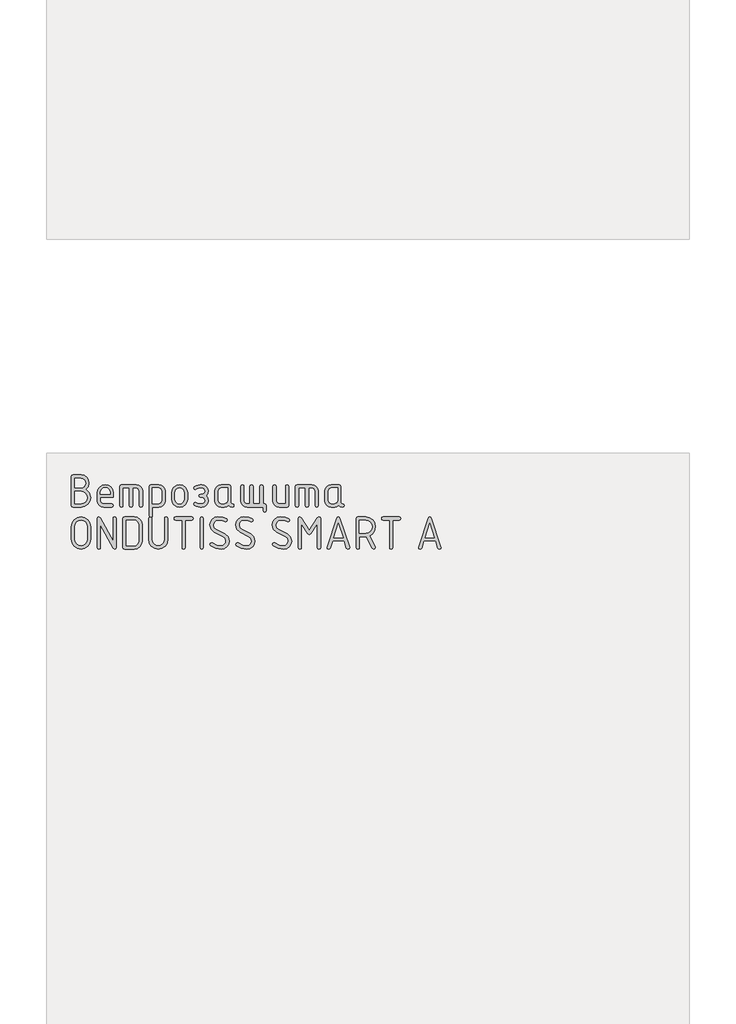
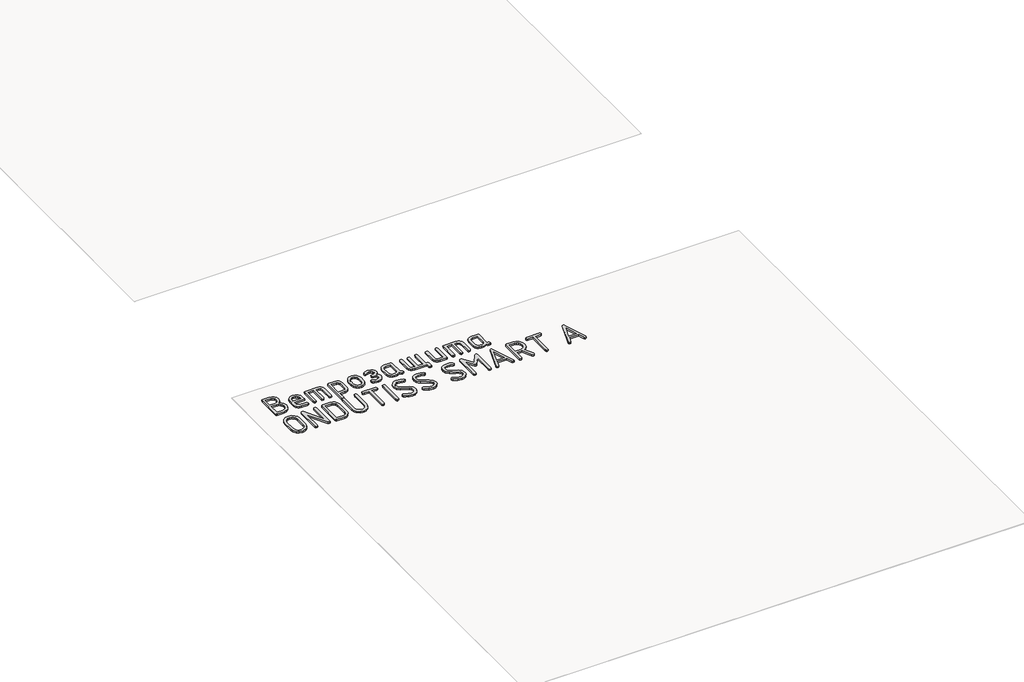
# One storey, part 10 of 42: 1 proxy.
"""IFC4 building model written with IfcOpenShell, lengths in millimetres."""

from ifc_helpers import new_model, si_unit, origin, origin_with_axes, place, context, project, spatial, polyline, outline, extrude, element, save

model = new_model("IFC4")

# Units and contexts
model_context = context("Model", 3, world=origin())
ifc_project = project(units=[si_unit("LENGTHUNIT", "METRE", prefix="MILLI")], contexts=[model_context])

# Site, building, storey
site = spatial("IfcSite", under=ifc_project)
building = spatial("IfcBuilding", under=site)
storey = spatial("IfcBuildingStorey", under=building, Name="Этаж 01", Elevation=0.0)

# Proxy
placement = place(None, origin())
element("IfcBuildingElementProxy", 1, Name="150 мм GOST Common", ObjectType="150 мм GOST Common", at=placement, inside=storey, context=model_context, shape_type="SweptSolid", body=[
    extrude(outline(polyline([(-23252.8873918, -34744.1512234), (-23236.4972471, -34759.9620699), (-23231.0338655, -34782.145197), (-23234.3098969, -34799.2594645), (-23244.137991, -34813.6869868), (-23258.6004709, -34823.5000991), (-23275.7796598, -34826.7711365), (-23313.0545046, -34826.7711365), (-23318.6577168, -34824.8834233), (-23320.5254542, -34819.2202837), (-23320.5254542, -34683.4647398), (-23318.6677047, -34677.8016002), (-23313.0944562, -34675.913887), (-23275.8995146, -34675.913887), (-23261.4620044, -34678.6905234), (-23249.4715299, -34687.0204324), (-23241.3963123, -34699.3854533), (-23238.7045731, -34714.267425), (-23242.2502778, -34730.9272431), (-23252.8873918, -34744.1512234)]), holes=[polyline([(-23305.184039, -34691.2553022), (-23305.184039, -34737.2795478), (-23275.9794178, -34737.2795478), (-23267.5446358, -34735.5965866), (-23260.4582204, -34730.5477029), (-23255.6490463, -34723.1117109), (-23254.0459883, -34714.267425), (-23255.6490463, -34705.4231391), (-23260.4582204, -34697.9871472), (-23267.5446358, -34692.9382635), (-23275.9794178, -34691.2553022), (-23305.184039, -34691.2553022)]), polyline([(-23305.184039, -34752.620963), (-23305.184039, -34811.4297213), (-23275.7796598, -34811.4297213), (-23264.3884593, -34809.2973045), (-23254.9049477, -34802.9000542), (-23248.5076975, -34793.4165427), (-23246.3752807, -34782.0253421), (-23248.5076975, -34770.6341416), (-23254.9049477, -34761.1506301), (-23264.3884593, -34754.7533798), (-23275.7796598, -34752.620963), (-23305.184039, -34752.620963)])]), origin_with_axes(), (0.0, 0.0, 1.0), 10.0),
    extrude(outline(polyline([(-23185.0096199, -34780.7468909), (-23185.0096199, -34796.0883061), (-23180.5749921, -34806.8952144), (-23170.0277691, -34811.4297213), (-23132.5132148, -34811.4297213), (-23126.8800389, -34813.3473982), (-23125.0023136, -34819.1004289), (-23126.8800389, -34824.8534596), (-23132.5132148, -34826.7711365), (-23170.0277691, -34826.7711365), (-23181.683649, -34824.6037621), (-23191.4817794, -34818.1016388), (-23198.1337212, -34808.443339), (-23200.3510351, -34796.8074349), (-23200.3510351, -34759.3727838), (-23197.5694048, -34744.9802191), (-23189.2245139, -34732.8848716), (-23176.9843418, -34724.6748174), (-23162.5168679, -34721.9381326), (-23147.9395271, -34724.5949142), (-23135.8491736, -34732.5652588), (-23127.7140286, -34744.4109088), (-23125.0023136, -34758.6936065), (-23125.0023136, -34780.7468909), (-23185.0096199, -34780.7468909)]), holes=[polyline([(-23162.5168679, -34735.4018225), (-23171.146414, -34737.0498261), (-23178.4176056, -34741.9938369), (-23183.3616163, -34749.2650284), (-23185.0096199, -34757.8945745), (-23185.0096199, -34765.4054757), (-23140.024116, -34765.4054757), (-23140.024116, -34757.8945745), (-23141.6721196, -34749.2650284), (-23146.6161303, -34741.9938369), (-23153.8873219, -34737.0498261), (-23162.5168679, -34735.4018225)])]), origin_with_axes(), (0.0, 0.0, 1.0), 10.0),
    extrude(outline(polyline([(-23087.8473237, -34721.9381326), (-23018.8109553, -34721.9381326), (-23006.9852811, -34724.1204889), (-22997.0772837, -34730.6675577), (-22990.3654146, -34740.3408393), (-22988.1281249, -34751.9018342), (-22988.1281249, -34819.3001869), (-22990.0458018, -34824.9033991), (-22995.7988325, -34826.7711365), (-23001.5518632, -34824.9033991), (-23003.4695401, -34819.3001869), (-23003.4695401, -34752.1814954), (-23007.8841921, -34741.574345), (-23018.8109553, -34737.2795478), (-23034.1523705, -34737.2795478), (-23034.1523705, -34819.3001869), (-23036.0700474, -34824.9033991), (-23041.8230781, -34826.7711365), (-23047.5761088, -34824.9033991), (-23049.4937857, -34819.3001869), (-23049.4937857, -34737.2795478), (-23080.1766161, -34737.2795478), (-23080.1766161, -34819.3001869), (-23082.094293, -34824.9033991), (-23087.8473237, -34826.7711365), (-23093.6003544, -34824.9033991), (-23095.5180313, -34819.3001869), (-23095.5180313, -34729.4090822), (-23093.6003544, -34723.80587), (-23087.8473237, -34721.9381326)])), origin_with_axes(), (0.0, 0.0, 1.0), 10.0),
    extrude(outline(polyline([(-22957.4452945, -34729.4889854), (-22955.587545, -34723.8258458), (-22950.0142965, -34721.9381326), (-22912.9392098, -34721.9381326), (-22901.4431363, -34724.105507), (-22891.8847155, -34730.6076303), (-22885.4425196, -34740.2659301), (-22883.295121, -34751.9018342), (-22883.295121, -34796.8074349), (-22885.4275378, -34808.3684298), (-22891.8247881, -34818.0417114), (-22901.3082996, -34824.5887802), (-22912.6995002, -34826.7711365), (-22942.1038793, -34826.7711365), (-22942.1038793, -34865.1246745), (-22944.0215562, -34870.8777052), (-22949.7745869, -34872.7953821), (-22955.5276176, -34870.9076689), (-22957.4452945, -34865.2445293), (-22957.4452945, -34729.4889854)]), holes=[polyline([(-22942.1038793, -34737.2795478), (-22942.1038793, -34811.4297213), (-22913.1389678, -34811.4297213), (-22902.871406, -34807.0949725), (-22898.6365362, -34796.6076769), (-22898.6365362, -34752.1015922), (-22902.8114786, -34741.5543692), (-22913.1389678, -34737.2795478), (-22942.1038793, -34737.2795478)])]), origin_with_axes(), (0.0, 0.0, 1.0), 10.0),
    extrude(outline(polyline([(-22852.6122906, -34789.3364853), (-22852.6122906, -34759.3727838), (-22849.9005756, -34744.9802191), (-22841.7654307, -34732.8848716), (-22829.784944, -34724.6748174), (-22815.5372039, -34721.9381326), (-22801.1396453, -34724.6448537), (-22789.1891223, -34732.7650168), (-22781.1438685, -34744.8304006), (-22778.4621172, -34759.3727838), (-22778.4621172, -34789.3364853), (-22781.1738322, -34803.72905), (-22789.3089771, -34815.8243975), (-22801.2894638, -34824.0344517), (-22815.5372039, -34826.7711365), (-22829.784944, -34824.0344517), (-22841.7654307, -34815.8243975), (-22849.9005756, -34803.72905), (-22852.6122906, -34789.3364853)]), holes=[polyline([(-22793.8035324, -34788.8970177), (-22793.8035324, -34758.8933645), (-22795.3966025, -34750.2638185), (-22800.1758129, -34742.9926269), (-22807.2023009, -34738.0486162), (-22815.5372039, -34736.4006126), (-22823.8721069, -34738.0486162), (-22830.8985949, -34742.9926269), (-22835.6778053, -34750.2638185), (-22837.2708754, -34758.8933645), (-22837.2708754, -34788.8970177), (-22835.6927871, -34797.606467), (-22830.9585223, -34804.8776585), (-22823.9470161, -34809.7917056), (-22815.5372039, -34811.4297213), (-22807.2023009, -34809.7817177), (-22800.1758129, -34804.8377069), (-22795.3966025, -34797.5565275), (-22793.8035324, -34788.8970177)])]), origin_with_axes(), (0.0, 0.0, 1.0), 10.0),
    extrude(outline(polyline([(-22696.6412361, -34796.0483545), (-22700.6363963, -34784.7020995), (-22709.505652, -34780.7468909), (-22719.1739397, -34780.7468909), (-22724.4875028, -34778.5495528), (-22726.6448893, -34773.1161349), (-22724.4275754, -34767.6627412), (-22717.0165532, -34765.4054757), (-22714.7393119, -34765.4054757), (-22712.3422157, -34765.4054757), (-22700.6763479, -34761.3503881), (-22696.6412361, -34751.3425118), (-22700.9759849, -34741.3346354), (-22711.6630385, -34737.2795478), (-22719.1739397, -34737.2795478), (-22734.5553065, -34741.0949258), (-22743.4645138, -34744.9103038), (-22747.459674, -34742.1736191), (-22749.1775929, -34736.9199834), (-22746.1013195, -34731.1769406), (-22736.8724994, -34726.013196), (-22719.1739397, -34721.9381326), (-22711.6630385, -34721.9381326), (-22699.9771949, -34724.0555675), (-22690.1690766, -34730.4078723), (-22683.5171348, -34739.8264625), (-22681.2998209, -34751.1427537), (-22683.9466146, -34764.4366493), (-22691.8869955, -34773.0761833), (-22683.9466146, -34782.2650518), (-22681.2998209, -34796.0883061), (-22683.5171348, -34807.9888895), (-22690.1690766, -34817.881905), (-22699.9771949, -34824.5488286), (-22711.6630385, -34826.7711365), (-22719.1739397, -34826.7711365), (-22736.9923542, -34822.8159279), (-22746.1312832, -34817.7420744), (-22749.1775929, -34811.7892857), (-22747.459674, -34806.5156742), (-22743.3446589, -34803.7989653), (-22734.2157179, -34807.6143433), (-22719.1739397, -34811.4297213), (-22711.6630385, -34811.4297213), (-22701.0159365, -34806.935166), (-22696.6412361, -34796.0483545)])), origin_with_axes(), (0.0, 0.0, 1.0), 10.0),
    extrude(outline(polyline([(-22561.4849663, -34819.3001869), (-22563.3527037, -34824.9033991), (-22568.9559159, -34826.7711365), (-22578.4344335, -34824.7835443), (-22586.01525, -34818.8207677), (-22595.1342031, -34824.7835443), (-22606.1109058, -34826.7711365), (-22620.9729018, -34826.7711365), (-22632.4689753, -34824.6037621), (-22642.0273961, -34818.1016388), (-22648.4695919, -34808.443339), (-22650.6169905, -34796.8074349), (-22650.6169905, -34751.9018342), (-22648.4695919, -34740.2659301), (-22642.0273961, -34730.6076303), (-22632.4689753, -34724.105507), (-22620.9729018, -34721.9381326), (-22583.8978151, -34721.9381326), (-22578.3245666, -34723.80587), (-22576.4668171, -34729.4090822), (-22576.4668171, -34804.3183361), (-22574.5940857, -34809.9215483), (-22568.9758917, -34811.7892857), (-22563.3576976, -34813.667011), (-22561.4849663, -34819.3001869)]), holes=[polyline([(-22591.8082323, -34737.2795478), (-22620.7731438, -34737.2795478), (-22631.0407055, -34741.6142966), (-22635.2755753, -34752.1015922), (-22635.2755753, -34796.6076769), (-22631.0007539, -34807.0550209), (-22620.7731438, -34811.4297213), (-22606.3106638, -34811.4297213), (-22596.0431021, -34807.0949725), (-22591.8082323, -34796.6076769), (-22591.8082323, -34737.2795478)])]), origin_with_axes(), (0.0, 0.0, 1.0), 10.0),
    extrude(outline(polyline([(-22425.6095676, -34826.7711365), (-22500.4788699, -34826.7711365), (-22512.114774, -34824.5887802), (-22521.7730738, -34818.0417114), (-22528.2751971, -34808.3684298), (-22530.4425715, -34796.8074349), (-22530.4425715, -34729.4090822), (-22528.5248946, -34723.80587), (-22522.7718639, -34721.9381326), (-22517.0188332, -34723.80587), (-22515.1011563, -34729.4090822), (-22515.1011563, -34796.5277737), (-22510.9461897, -34807.0150692), (-22501.0381924, -34811.4297213), (-22486.9752284, -34811.4297213), (-22486.9752284, -34729.4090822), (-22485.0575515, -34723.80587), (-22479.3045208, -34721.9381326), (-22473.5514901, -34723.80587), (-22471.6338132, -34729.4090822), (-22471.6338132, -34811.4297213), (-22440.9509828, -34811.4297213), (-22440.9509828, -34729.4090822), (-22439.0333059, -34723.80587), (-22433.2802752, -34721.9381326), (-22427.5272445, -34723.80587), (-22425.6095676, -34729.4090822), (-22425.6095676, -34811.4297213), (-22417.93886, -34811.4297213), (-22412.1858293, -34813.3473982), (-22410.2681524, -34819.1004289), (-22410.2681524, -34842.1125517), (-22412.1858293, -34847.8655824), (-22417.93886, -34849.7832593), (-22423.6918907, -34847.8655824), (-22425.6095676, -34842.1125517), (-22425.6095676, -34826.7711365)])), origin_with_axes(), (0.0, 0.0, 1.0), 10.0),
    extrude(outline(polyline([(-22305.4351486, -34729.4090822), (-22305.4351486, -34819.3001869), (-22307.2928981, -34824.9033991), (-22312.8661466, -34826.7711365), (-22349.9412333, -34826.7711365), (-22361.4373068, -34824.6037621), (-22370.9957276, -34818.1016388), (-22377.4379234, -34808.443339), (-22379.585322, -34796.8074349), (-22379.585322, -34729.4090822), (-22377.6676451, -34723.80587), (-22371.9146144, -34721.9381326), (-22366.1615837, -34723.80587), (-22364.2439068, -34729.4090822), (-22364.2439068, -34796.5277737), (-22359.9690854, -34807.0150692), (-22349.7414753, -34811.4297213), (-22320.7765638, -34811.4297213), (-22320.7765638, -34729.4090822), (-22318.8588869, -34723.80587), (-22313.1058562, -34721.9381326), (-22307.3528255, -34723.80587), (-22305.4351486, -34729.4090822)])), origin_with_axes(), (0.0, 0.0, 1.0), 10.0),
    extrude(outline(polyline([(-22267.0816106, -34721.9381326), (-22198.0452422, -34721.9381326), (-22186.219568, -34724.1204889), (-22176.3115707, -34730.6675577), (-22169.5997015, -34740.3408393), (-22167.3624118, -34751.9018342), (-22167.3624118, -34819.3001869), (-22169.2800887, -34824.9033991), (-22175.0331194, -34826.7711365), (-22180.7861501, -34824.9033991), (-22182.703827, -34819.3001869), (-22182.703827, -34752.1814954), (-22187.118479, -34741.574345), (-22198.0452422, -34737.2795478), (-22213.3866574, -34737.2795478), (-22213.3866574, -34819.3001869), (-22215.3043343, -34824.9033991), (-22221.057365, -34826.7711365), (-22226.8103957, -34824.9033991), (-22228.7280726, -34819.3001869), (-22228.7280726, -34737.2795478), (-22259.410903, -34737.2795478), (-22259.410903, -34819.3001869), (-22261.3285799, -34824.9033991), (-22267.0816106, -34826.7711365), (-22272.8346413, -34824.9033991), (-22274.7523182, -34819.3001869), (-22274.7523182, -34729.4090822), (-22272.8346413, -34723.80587), (-22267.0816106, -34721.9381326)])), origin_with_axes(), (0.0, 0.0, 1.0), 10.0),
    extrude(outline(polyline([(-22047.5475572, -34819.3001869), (-22049.4152946, -34824.9033991), (-22055.0185068, -34826.7711365), (-22064.4970244, -34824.7835443), (-22072.0778409, -34818.8207677), (-22081.196794, -34824.7835443), (-22092.1734967, -34826.7711365), (-22107.0354927, -34826.7711365), (-22118.5315662, -34824.6037621), (-22128.089987, -34818.1016388), (-22134.5321828, -34808.443339), (-22136.6795814, -34796.8074349), (-22136.6795814, -34751.9018342), (-22134.5321828, -34740.2659301), (-22128.089987, -34730.6076303), (-22118.5315662, -34724.105507), (-22107.0354927, -34721.9381326), (-22069.9604059, -34721.9381326), (-22064.3871575, -34723.80587), (-22062.529408, -34729.4090822), (-22062.529408, -34804.3183361), (-22060.6566766, -34809.9215483), (-22055.0384826, -34811.7892857), (-22049.4202885, -34813.667011), (-22047.5475572, -34819.3001869)]), holes=[polyline([(-22077.8708232, -34737.2795478), (-22106.8357347, -34737.2795478), (-22117.1032964, -34741.6142966), (-22121.3381662, -34752.1015922), (-22121.3381662, -34796.6076769), (-22117.0633448, -34807.0550209), (-22106.8357347, -34811.4297213), (-22092.3732547, -34811.4297213), (-22082.105693, -34807.0949725), (-22077.8708232, -34796.6076769), (-22077.8708232, -34737.2795478)])]), origin_with_axes(), (0.0, 0.0, 1.0), 10.0),
    extrude(outline(polyline([(-23231.0338655, -34977.5302169), (-23234.3098969, -34994.8991759), (-23244.137991, -35009.5314502), (-23258.6004709, -35019.4793991), (-23275.7796598, -35022.7953821), (-23292.9588487, -35019.4793991), (-23307.4213287, -35009.5314502), (-23317.2494228, -34994.8991759), (-23320.5254542, -34977.5302169), (-23320.5254542, -34917.2032978), (-23317.2494228, -34899.8343388), (-23307.4213287, -34885.2020645), (-23292.9588487, -34875.2541156), (-23275.7796598, -34871.9381326), (-23258.5255617, -34875.2391337), (-23244.0780636, -34885.1421371), (-23234.294915, -34899.7594295), (-23231.0338655, -34917.2032978), (-23231.0338655, -34977.5302169)]), holes=[polyline([(-23246.3752807, -34977.4103621), (-23246.3752807, -34917.3231526), (-23248.5076975, -34905.6772606), (-23254.9049477, -34895.9889971), (-23264.3884593, -34889.4569101), (-23275.7796598, -34887.2795478), (-23287.1708604, -34889.4569101), (-23296.6543719, -34895.9889971), (-23303.0516222, -34905.6772606), (-23305.184039, -34917.3231526), (-23305.184039, -34977.4103621), (-23303.0516222, -34989.0562541), (-23296.6543719, -34998.7445176), (-23287.1708604, -35005.2766046), (-23275.7796598, -35007.4539669), (-23264.3884593, -35005.2766046), (-23254.9049477, -34998.7445176), (-23248.5076975, -34989.0562541), (-23246.3752807, -34977.4103621)])]), origin_with_axes(), (0.0, 0.0, 1.0), 10.0),
    extrude(outline(polyline([(-23126.2008617, -34986.1198114), (-23126.2008617, -34879.4889854), (-23124.2831848, -34873.8258458), (-23118.5301541, -34871.9381326), (-23112.7771234, -34873.8258458), (-23110.8594465, -34879.4889854), (-23110.8594465, -35015.2445293), (-23112.8969782, -35020.9076689), (-23119.0095733, -35022.7953821), (-23126.2008617, -35019.0399315), (-23185.0096199, -34908.4938485), (-23185.0096199, -35015.2445293), (-23186.9272968, -35020.9076689), (-23192.6803275, -35022.7953821), (-23198.4333582, -35020.9076689), (-23200.3510351, -35015.2445293), (-23200.3510351, -34879.4889854), (-23198.353455, -34873.8258458), (-23192.3607147, -34871.9381326), (-23185.0096199, -34876.4127121), (-23126.2008617, -34986.1198114)])), origin_with_axes(), (0.0, 0.0, 1.0), 10.0),
    extrude(outline(polyline([(-23080.1766161, -34879.4889854), (-23078.3088787, -34873.8258458), (-23072.7056665, -34871.9381326), (-23027.9598721, -34871.9381326), (-23013.4874043, -34874.6648295), (-23001.47196, -34882.84492), (-22993.3817605, -34895.0001949), (-22990.6850274, -34909.652445), (-22990.6850274, -34985.0810697), (-22993.4117242, -34999.5835013), (-23001.5918148, -35011.7687399), (-23013.6372228, -35020.0387215), (-23027.9598721, -35022.7953821), (-23072.7056665, -35022.7953821), (-23078.3088787, -35020.9076689), (-23080.1766161, -35015.2445293), (-23080.1766161, -34879.4889854)]), holes=[polyline([(-23064.8352009, -34887.2795478), (-23064.8352009, -35007.4539669), (-23028.079727, -35007.4539669), (-23019.6049934, -35005.8059633), (-23012.4786263, -35000.8619525), (-23007.6394885, -34993.580773), (-23006.0264426, -34984.9212633), (-23006.0264426, -34909.8122514), (-23007.6394885, -34901.1527416), (-23012.4786263, -34893.8715622), (-23019.6049934, -34888.9275514), (-23028.079727, -34887.2795478), (-23064.8352009, -34887.2795478)])]), origin_with_axes(), (0.0, 0.0, 1.0), 10.0),
    extrude(outline(polyline([(-22870.5106084, -34879.4889854), (-22870.5106084, -34977.5302169), (-22873.7866397, -34994.8991759), (-22883.6147338, -35009.5314502), (-22898.0772138, -35019.4793991), (-22915.2564027, -35022.7953821), (-22932.4355916, -35019.4793991), (-22946.8980715, -35009.5314502), (-22956.7261656, -34994.8991759), (-22960.002197, -34977.5302169), (-22960.002197, -34879.4889854), (-22958.0845201, -34873.8258458), (-22952.3314894, -34871.9381326), (-22946.5784587, -34873.8158579), (-22944.6607818, -34879.4490338), (-22944.6607818, -34977.3304589), (-22942.5283651, -34989.0113086), (-22936.1311148, -34998.7245418), (-22926.6476032, -35005.2716106), (-22915.2564027, -35007.4539669), (-22903.8652021, -35005.2716106), (-22894.3816906, -34998.7245418), (-22887.9844403, -34989.0113086), (-22885.8520236, -34977.3304589), (-22885.8520236, -34879.4490338), (-22883.9343467, -34873.8158579), (-22878.181316, -34871.9381326), (-22872.4282853, -34873.8258458), (-22870.5106084, -34879.4889854)])), origin_with_axes(), (0.0, 0.0, 1.0), 10.0),
    extrude(outline(polyline([(-22841.5456969, -34879.6088402), (-22839.6679716, -34873.8558095), (-22834.0347957, -34871.9381326), (-22758.6860741, -34871.9381326), (-22753.082862, -34873.8558095), (-22751.2151246, -34879.6088402), (-22753.082862, -34885.3618709), (-22758.6860741, -34887.2795478), (-22788.6897273, -34887.2795478), (-22788.6897273, -35015.2844809), (-22790.6074042, -35020.9176568), (-22796.3604349, -35022.7953821), (-22802.1134656, -35020.9176568), (-22804.0311425, -35015.2844809), (-22804.0311425, -34887.2795478), (-22834.0347957, -34887.2795478), (-22839.6679716, -34885.3618709), (-22841.5456969, -34879.6088402)])), origin_with_axes(), (0.0, 0.0, 1.0), 10.0),
    extrude(outline(polyline([(-22711.9826513, -35022.7953821), (-22717.735682, -35020.9076689), (-22719.6533589, -35015.2445293), (-22719.6533589, -34879.4889854), (-22717.735682, -34873.8258458), (-22711.9826513, -34871.9381326), (-22706.2296206, -34873.8258458), (-22704.3119437, -34879.4889854), (-22704.3119437, -35015.2445293), (-22706.2296206, -35020.9076689), (-22711.9826513, -35022.7953821)])), origin_with_axes(), (0.0, 0.0, 1.0), 10.0),
    extrude(outline(polyline([(-22584.1375247, -34985.1609729), (-22586.8792034, -34999.5535376), (-22595.1042394, -35011.7287883), (-22607.1646293, -35020.0287336), (-22621.4123694, -35022.7953821), (-22647.4308503, -35018.6104518), (-22670.353082, -35006.0556608), (-22673.6291133, -34999.9430657), (-22671.4317752, -34994.6494784), (-22666.1981153, -34992.4321645), (-22661.9632455, -34993.790519), (-22641.5080253, -35004.2578387), (-22621.7319822, -35007.4539669), (-22613.1823394, -35005.8009693), (-22605.991051, -35000.8419767), (-22601.1069677, -34993.5458154), (-22599.4789399, -34984.8813117), (-22602.5652011, -34972.9158069), (-22611.8239849, -34964.665801), (-22653.5334575, -34943.0120327), (-22668.6051994, -34929.3985243), (-22673.6291133, -34909.5725418), (-22670.9024165, -34895.1799771), (-22662.722326, -34883.0047264), (-22650.7268574, -34874.7047811), (-22636.5540266, -34871.9381326), (-22613.3721095, -34874.0256038), (-22596.4026665, -34880.2880175), (-22591.9680387, -34887.2795478), (-22594.1853526, -34892.5731351), (-22599.4789399, -34894.790449), (-22602.5951648, -34893.991417), (-22619.4747167, -34888.9575151), (-22636.2344138, -34887.2795478), (-22644.7091474, -34888.9325454), (-22651.8355144, -34893.891538), (-22656.6746522, -34901.1876993), (-22658.2876981, -34909.852203), (-22655.2513764, -34921.7877441), (-22646.1424111, -34929.9478588), (-22604.4728901, -34951.6016272), (-22589.221366, -34965.3050267), (-22584.1375247, -34985.1609729)])), origin_with_axes(), (0.0, 0.0, 1.0), 10.0),
    extrude(outline(polyline([(-22463.9631056, -34985.1609729), (-22466.7047843, -34999.5535376), (-22474.9298204, -35011.7287883), (-22486.9902103, -35020.0287336), (-22501.2379504, -35022.7953821), (-22527.2564312, -35018.6104518), (-22550.1786629, -35006.0556608), (-22553.4546943, -34999.9430657), (-22551.2573562, -34994.6494784), (-22546.0236963, -34992.4321645), (-22541.7888265, -34993.790519), (-22521.3336062, -35004.2578387), (-22501.5575632, -35007.4539669), (-22493.0079203, -35005.8009693), (-22485.816632, -35000.8419767), (-22480.9325486, -34993.5458154), (-22479.3045208, -34984.8813117), (-22482.3907821, -34972.9158069), (-22491.6495659, -34964.665801), (-22533.3590384, -34943.0120327), (-22548.4307803, -34929.3985243), (-22553.4546943, -34909.5725418), (-22550.7279974, -34895.1799771), (-22542.5479069, -34883.0047264), (-22530.5524384, -34874.7047811), (-22516.3796075, -34871.9381326), (-22493.1976904, -34874.0256038), (-22476.2282475, -34880.2880175), (-22471.7936196, -34887.2795478), (-22474.0109335, -34892.5731351), (-22479.3045208, -34894.790449), (-22482.4207458, -34893.991417), (-22499.3002977, -34888.9575151), (-22516.0599947, -34887.2795478), (-22524.5347283, -34888.9325454), (-22531.6610953, -34893.891538), (-22536.5002331, -34901.1876993), (-22538.1132791, -34909.852203), (-22535.0769573, -34921.7877441), (-22525.967992, -34929.9478588), (-22484.2984711, -34951.6016272), (-22469.046947, -34965.3050267), (-22463.9631056, -34985.1609729)])), origin_with_axes(), (0.0, 0.0, 1.0), 10.0),
    extrude(outline(polyline([(-22292.6506359, -34985.1609729), (-22295.3923146, -34999.5535376), (-22303.6173507, -35011.7287883), (-22315.6777406, -35020.0287336), (-22329.9254807, -35022.7953821), (-22355.9439615, -35018.6104518), (-22378.8661932, -35006.0556608), (-22382.1422246, -34999.9430657), (-22379.9448865, -34994.6494784), (-22374.7112266, -34992.4321645), (-22370.4763568, -34993.790519), (-22350.0211365, -35004.2578387), (-22330.2450935, -35007.4539669), (-22321.6954506, -35005.8009693), (-22314.5041623, -35000.8419767), (-22309.6200789, -34993.5458154), (-22307.9920511, -34984.8813117), (-22311.0783124, -34972.9158069), (-22320.3370962, -34964.665801), (-22362.0465687, -34943.0120327), (-22377.1183106, -34929.3985243), (-22382.1422246, -34909.5725418), (-22379.4155277, -34895.1799771), (-22371.2354372, -34883.0047264), (-22359.2399687, -34874.7047811), (-22345.0671378, -34871.9381326), (-22321.8852207, -34874.0256038), (-22304.9157778, -34880.2880175), (-22300.4811499, -34887.2795478), (-22302.6984638, -34892.5731351), (-22307.9920511, -34894.790449), (-22311.1082761, -34893.991417), (-22327.987828, -34888.9575151), (-22344.747525, -34887.2795478), (-22353.2222586, -34888.9325454), (-22360.3486256, -34893.891538), (-22365.1877634, -34901.1876993), (-22366.8008094, -34909.852203), (-22363.7644876, -34921.7877441), (-22354.6555223, -34929.9478588), (-22312.9860014, -34951.6016272), (-22297.7344773, -34965.3050267), (-22292.6506359, -34985.1609729)])), origin_with_axes(), (0.0, 0.0, 1.0), 10.0),
    extrude(outline(polyline([(-22165.4447349, -34871.9381326), (-22159.212285, -34873.8258458), (-22157.1348017, -34879.4889854), (-22157.1348017, -35015.2445293), (-22159.0524786, -35020.9076689), (-22164.8055093, -35022.7953821), (-22170.55854, -35020.9076689), (-22172.4762169, -35015.2445293), (-22172.4762169, -34904.2989303), (-22202.679628, -34950.1234179), (-22209.5513036, -34954.6379489), (-22216.5028824, -34950.1234179), (-22246.6263903, -34904.2989303), (-22246.6263903, -35015.2445293), (-22248.5440672, -35020.9076689), (-22254.2970979, -35022.7953821), (-22260.0501286, -35020.9076689), (-22261.9678055, -35015.2445293), (-22261.9678055, -34879.4889854), (-22259.9302738, -34873.8258458), (-22253.8176787, -34871.9381326), (-22246.6263903, -34875.6935832), (-22209.6711584, -34933.6633578), (-22172.4762169, -34875.2541156), (-22165.4447349, -34871.9381326)])), origin_with_axes(), (0.0, 0.0, 1.0), 10.0),
    extrude(outline(polyline([(-22021.7787738, -35015.2445293), (-22023.6564991, -35020.9076689), (-22029.289675, -35022.7953821), (-22033.814194, -35021.4869671), (-22036.4410118, -35017.5617222), (-22047.2279444, -34984.4418441), (-22101.3224136, -34984.4418441), (-22112.1492977, -35017.5617222), (-22114.7761156, -35021.4869671), (-22119.3006345, -35022.7953821), (-22124.9338104, -35020.9076689), (-22126.8115357, -35015.2445293), (-22126.4519713, -35012.8474332), (-22081.7860802, -34878.0107761), (-22078.889589, -34873.4562935), (-22074.275179, -34871.9381326), (-22069.7206963, -34873.3963661), (-22066.9240842, -34877.7710665), (-22022.1383383, -35012.8474332), (-22021.7787738, -35015.2445293)]), holes=[polyline([(-22074.275179, -34902.9405758), (-22096.3284633, -34969.1004289), (-22052.2618462, -34969.1004289), (-22074.275179, -34902.9405758)])]), origin_with_axes(), (0.0, 0.0, 1.0), 10.0),
    extrude(outline(polyline([(-21927.6128477, -34959.2723348), (-21901.4445484, -35011.8086915), (-21901.4445484, -35015.2445293), (-21903.8815961, -35020.5181407), (-21909.4748204, -35022.7953821), (-21916.7859636, -35018.6803671), (-21943.8731498, -34963.866769), (-21946.5099555, -34963.9866238), (-21975.5947218, -34963.9866238), (-21975.5947218, -35015.4442873), (-21977.5123987, -35020.9576084), (-21983.2654294, -35022.7953821), (-21989.0184601, -35020.9076689), (-21990.936137, -35015.2445293), (-21990.936137, -34879.4889854), (-21989.0683996, -34873.8258458), (-21983.4651874, -34871.9381326), (-21946.1903427, -34871.9381326), (-21928.9362446, -34875.2391337), (-21914.4887465, -34885.1421371), (-21904.7055979, -34899.7594295), (-21901.4445484, -34917.2032978), (-21903.0800671, -34931.533438), (-21907.9866232, -34943.3216576), (-21916.1642168, -34952.5679565), (-21927.6128477, -34959.2723348)]), holes=[polyline([(-21975.5947218, -34887.2795478), (-21975.5947218, -34948.6452086), (-21946.1903427, -34948.6452086), (-21934.7991422, -34946.4229007), (-21925.3156306, -34939.7559772), (-21918.9183803, -34929.8629617), (-21916.7859636, -34917.9623782), (-21918.9183803, -34906.0617947), (-21925.3156306, -34896.1687793), (-21934.7991422, -34889.5018557), (-21946.1903427, -34887.2795478), (-21975.5947218, -34887.2795478)])]), origin_with_axes(), (0.0, 0.0, 1.0), 10.0),
    extrude(outline(polyline([(-21872.4796369, -34879.6088402), (-21870.6019116, -34873.8558095), (-21864.9687357, -34871.9381326), (-21789.6200142, -34871.9381326), (-21784.016802, -34873.8558095), (-21782.1490646, -34879.6088402), (-21784.016802, -34885.3618709), (-21789.6200142, -34887.2795478), (-21819.6236673, -34887.2795478), (-21819.6236673, -35015.2844809), (-21821.5413442, -35020.9176568), (-21827.2943749, -35022.7953821), (-21833.0474056, -35020.9176568), (-21834.9650825, -35015.2844809), (-21834.9650825, -34887.2795478), (-21864.9687357, -34887.2795478), (-21870.6019116, -34885.3618709), (-21872.4796369, -34879.6088402)])), origin_with_axes(), (0.0, 0.0, 1.0), 10.0),
    extrude(outline(polyline([(-21594.7760508, -35015.2445293), (-21596.6537761, -35020.9076689), (-21602.286952, -35022.7953821), (-21606.811471, -35021.4869671), (-21609.4382888, -35017.5617222), (-21620.2252214, -34984.4418441), (-21674.3196906, -34984.4418441), (-21685.1465747, -35017.5617222), (-21687.7733926, -35021.4869671), (-21692.2979115, -35022.7953821), (-21697.9310874, -35020.9076689), (-21699.8088127, -35015.2445293), (-21699.4492483, -35012.8474332), (-21654.7833572, -34878.0107761), (-21651.886866, -34873.4562935), (-21647.272456, -34871.9381326), (-21642.7179733, -34873.3963661), (-21639.9213612, -34877.7710665), (-21595.1356153, -35012.8474332), (-21594.7760508, -35015.2445293)]), holes=[polyline([(-21647.272456, -34902.9405758), (-21669.3257403, -34969.1004289), (-21625.2591232, -34969.1004289), (-21647.272456, -34902.9405758)])]), origin_with_axes(), (0.0, 0.0, 1.0), 10.0),
])

save(model, "model.ifc")
